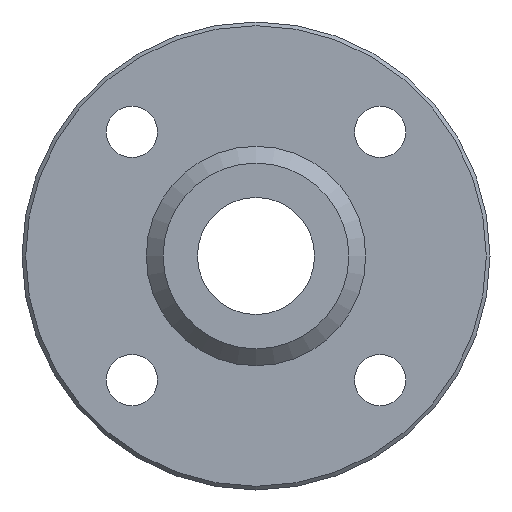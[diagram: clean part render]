
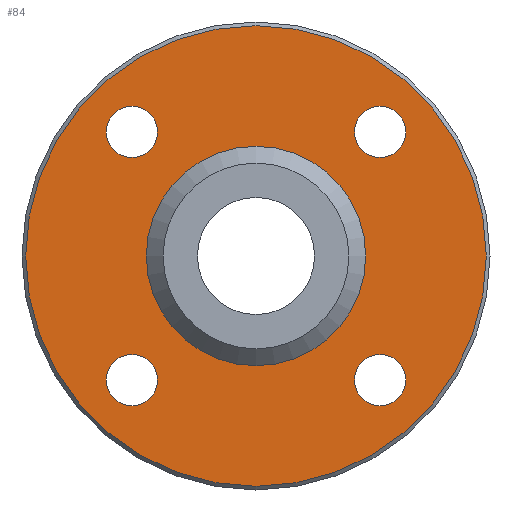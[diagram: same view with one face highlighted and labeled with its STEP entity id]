
A CAD part, left-side view. The second image highlights one B-rep face of the part: STEP entity #84.
In plain terms, the highlighted planar face has unit normal (-1, 0, 0).
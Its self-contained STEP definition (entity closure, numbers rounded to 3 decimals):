
#84=ADVANCED_FACE('',(#131,#132,#133,#134,#135,#136),#137,.T.);
#131=FACE_BOUND('',#211,.T.);
#132=FACE_BOUND('',#212,.T.);
#133=FACE_BOUND('',#213,.T.);
#134=FACE_BOUND('',#214,.T.);
#135=FACE_BOUND('',#215,.T.);
#136=FACE_OUTER_BOUND('',#216,.T.);
#137=PLANE('',#217);
#211=EDGE_LOOP('',(#309));
#212=EDGE_LOOP('',(#310));
#213=EDGE_LOOP('',(#311));
#214=EDGE_LOOP('',(#312));
#215=EDGE_LOOP('',(#313));
#216=EDGE_LOOP('',(#314));
#217=AXIS2_PLACEMENT_3D('',#315,#316,#317);
#309=ORIENTED_EDGE('',*,*,#398,.T.);
#310=ORIENTED_EDGE('',*,*,#403,.F.);
#311=ORIENTED_EDGE('',*,*,#404,.F.);
#312=ORIENTED_EDGE('',*,*,#405,.F.);
#313=ORIENTED_EDGE('',*,*,#406,.F.);
#314=ORIENTED_EDGE('',*,*,#407,.T.);
#315=CARTESIAN_POINT('',(-8.0,7.5,0.0));
#316=DIRECTION('',(-1.0,0.0,0.0));
#317=DIRECTION('',(0.0,0.0,1.0));
#398=EDGE_CURVE('',#436,#436,#437,.F.);
#403=EDGE_CURVE('',#446,#446,#447,.T.);
#404=EDGE_CURVE('',#448,#448,#449,.T.);
#405=EDGE_CURVE('',#450,#450,#451,.T.);
#406=EDGE_CURVE('',#452,#452,#453,.T.);
#407=EDGE_CURVE('',#454,#454,#455,.T.);
#436=VERTEX_POINT('',#492);
#437=CIRCLE('',#493,7.5);
#446=VERTEX_POINT('',#502);
#447=CIRCLE('',#503,1.75);
#448=VERTEX_POINT('',#504);
#449=CIRCLE('',#505,1.75);
#450=VERTEX_POINT('',#506);
#451=CIRCLE('',#507,1.75);
#452=VERTEX_POINT('',#508);
#453=CIRCLE('',#509,1.75);
#454=VERTEX_POINT('',#510);
#455=CIRCLE('',#511,15.746);
#492=CARTESIAN_POINT('',(-8.0,0.,7.5));
#493=AXIS2_PLACEMENT_3D('',#558,#559,#560);
#502=CARTESIAN_POINT('',(-8.0,8.485,-6.735));
#503=AXIS2_PLACEMENT_3D('',#573,#574,#575);
#504=CARTESIAN_POINT('',(-8.0,-8.485,-6.735));
#505=AXIS2_PLACEMENT_3D('',#576,#577,#578);
#506=CARTESIAN_POINT('',(-8.0,-8.485,10.235));
#507=AXIS2_PLACEMENT_3D('',#579,#580,#581);
#508=CARTESIAN_POINT('',(-8.0,8.485,10.235));
#509=AXIS2_PLACEMENT_3D('',#582,#583,#584);
#510=CARTESIAN_POINT('',(-8.0,0.0,15.746));
#511=AXIS2_PLACEMENT_3D('',#585,#586,#587);
#558=CARTESIAN_POINT('',(-8.0,0.0,0.0));
#559=DIRECTION('',(-1.0,0.0,0.0));
#560=DIRECTION('',(0.0,0.0,1.0));
#573=CARTESIAN_POINT('',(-8.0,8.485,-8.485));
#574=DIRECTION('',(-1.0,0.0,0.0));
#575=DIRECTION('',(0.0,0.0,1.0));
#576=CARTESIAN_POINT('',(-8.0,-8.485,-8.485));
#577=DIRECTION('',(-1.0,0.0,0.0));
#578=DIRECTION('',(0.0,0.0,1.0));
#579=CARTESIAN_POINT('',(-8.0,-8.485,8.485));
#580=DIRECTION('',(-1.0,0.0,0.0));
#581=DIRECTION('',(0.0,0.0,1.0));
#582=CARTESIAN_POINT('',(-8.0,8.485,8.485));
#583=DIRECTION('',(-1.0,0.0,0.0));
#584=DIRECTION('',(0.0,0.0,1.0));
#585=CARTESIAN_POINT('',(-8.0,0.0,0.0));
#586=DIRECTION('',(-1.0,0.0,0.0));
#587=DIRECTION('',(0.0,0.0,1.0));
